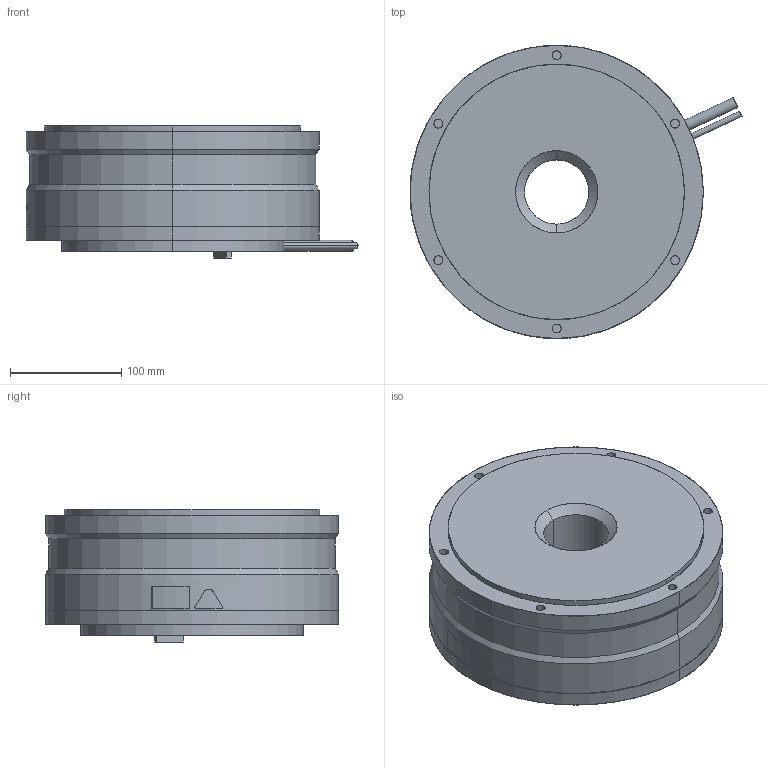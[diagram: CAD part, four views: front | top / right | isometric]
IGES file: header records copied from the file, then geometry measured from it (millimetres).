
Start section: SolidWorks IGES file using analytic representation for surfaces
Bounding box: 298.93 x 264 x 119 mm (x, y, z)
Surface area: 231301.9 mm2 (no closed solid volume)
Topology: 0 solids, 0 shells, 203 faces, 4730 edges, 4730 vertices
Faces by surface type: revolution 128, bspline 75
